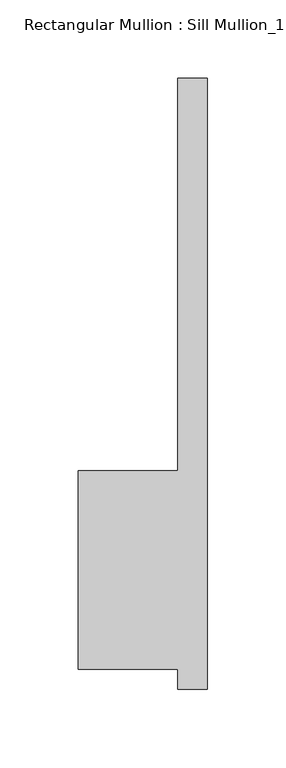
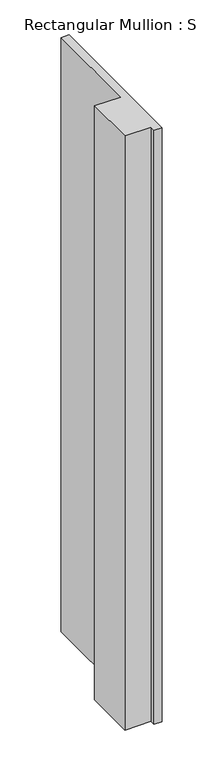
"""IFC4 building model written with IfcOpenShell, lengths in millimetres: member geometry."""

from ifc_helpers import new_model, si_unit, frame, origin, place, context, project, spatial, polyline, outline, extrude, source, transform, mapped, element, save


def member_8b5e70f0(model_context):
    return source(origin(), model_context, "Body", "SweptSolid", [
        extrude(outline(polyline([(-82.55, 50.8), (-19.05, 50.8), (-19.05, 301.625), (0.0, 301.625), (0.0, -88.9), (-19.05, -88.9), (-19.05, -76.2), (-82.55, -76.2), (-82.55, 50.8)])), frame((0.0, 0.0, -1518.5571429), z_axis=(0.0, 0.0, 1.0), x_axis=(1.0, 0.0, 0.0)), (0.0, 0.0, 1.0), 1518.5571429),
    ])


if __name__ == "__main__":
    model = new_model("IFC4")
    model_context = context("Model", 3, world=origin())
    ifc_project = project(units=[si_unit("LENGTHUNIT", "METRE", prefix="MILLI")], contexts=[model_context])
    site = spatial("IfcSite", under=ifc_project)
    building = spatial("IfcBuilding", under=site)
    placement = place(None, origin())
    member_shape = member_8b5e70f0(model_context)
    element("IfcMember", 1, ObjectType="Rectangular Mullion : Sill Mullion_15\" thick wall", at=placement, inside=building, context=model_context, shape_type="MappedRepresentation", body=[
        mapped(member_shape, transform((0.0, 0.0, 0.0), x_axis=(1.0, 0.0, 0.0), y_axis=(0.0, 1.0, 0.0), z_axis=(0.0, 0.0, 1.0))),
    ])
    save(model, "model.ifc")
